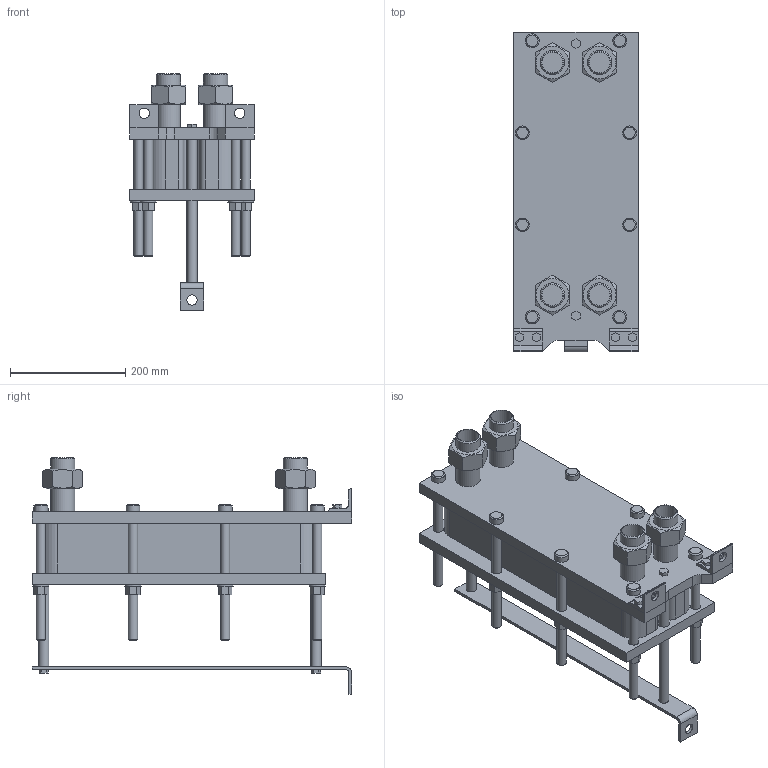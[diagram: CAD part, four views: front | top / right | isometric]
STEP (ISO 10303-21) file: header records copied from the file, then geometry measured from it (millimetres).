
FILE_DESCRIPTION(/* description */ (''),/* implementation_level */ '2;1');
FILE_NAME(/* name */ 'C:\Users\zhuro\Desktop\ENCO\TO\ЭН-004\ЭН-0,5-004-28-1.stp',/* time_stamp */ '2022-06-06T10:45:32+03:00',/* author */ ('zhuro'),/* organization */ (''),/* preprocessor_version */ 'ST-DEVELOPER v18.1',/* originating_system */ 'Autodesk Inventor 2022',/* authorisation */ '');
FILE_SCHEMA (('AUTOMOTIVE_DESIGN { 1 0 10303 214 3 1 1 }'));
Length unit declared in the file: millimetre
Products named in the file (1): ЭН-0,5-004-28-1
Bounding box: 216 x 555 x 411.4 mm (x, y, z)
Volume: 12011432.4 mm3; surface area: 1147028.8 mm2
Topology: 40 solids, 40 shells, 403 faces, 865 edges, 574 vertices
Faces by surface type: plane 272, cylinder 103, cone 28
Full cylindrical faces by diameter (mm): 10 x4, 16 x16, 18 x29, 20 x2, 24 x8, 28 x8, 36.3 x5, 42.3 x9
Entity records: 11137 total; most frequent: CARTESIAN_POINT 1939, DIRECTION 1879, ORIENTED_EDGE 1730, EDGE_CURVE 865, AXIS2_PLACEMENT_3D 658, VERTEX_POINT 574, LINE 563, VECTOR 563
